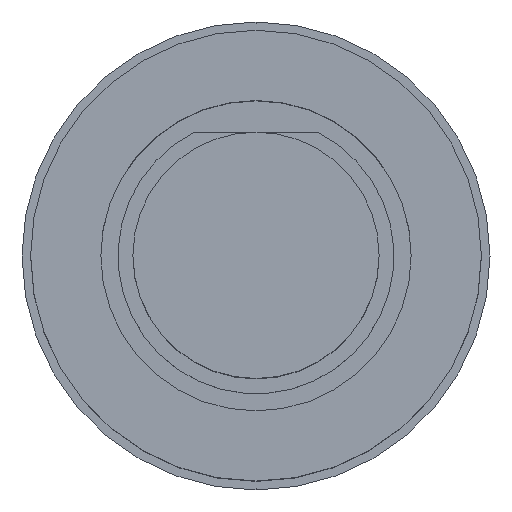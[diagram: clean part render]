
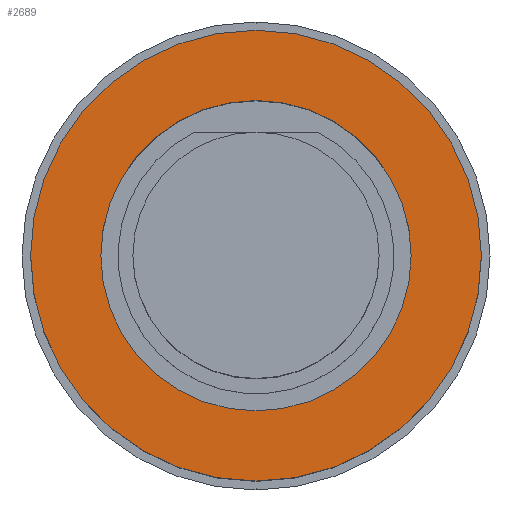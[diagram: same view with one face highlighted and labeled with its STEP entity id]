
A CAD part, top view. The second image highlights one B-rep face of the part: STEP entity #2689.
In plain terms, the highlighted planar face has unit normal (0, 0, 1) as drawn and (0, 1, 0) by its records, which use the part's own axes.
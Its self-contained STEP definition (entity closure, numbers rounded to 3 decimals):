
#30 = CARTESIAN_POINT ( 'NONE',  ( 0., 17.7, 4.575 ) ) ;
#161 = VERTEX_POINT ( 'NONE', #30 ) ;
#515 = EDGE_LOOP ( 'NONE', ( #4166, #1966 ) ) ;
#809 = VERTEX_POINT ( 'NONE', #5833 ) ;
#845 = CIRCLE ( 'NONE', #1359, 3.15 ) ;
#913 = VERTEX_POINT ( 'NONE', #1249 ) ;
#957 = CIRCLE ( 'NONE', #5367, 4.575 ) ;
#1141 = DIRECTION ( 'NONE',  ( 0., 1., 0. ) ) ;
#1249 = CARTESIAN_POINT ( 'NONE',  ( 0., 17.7, -4.575 ) ) ;
#1359 = AXIS2_PLACEMENT_3D ( 'NONE', #5986, #5046, #1848 ) ;
#1401 = CIRCLE ( 'NONE', #3564, 4.575 ) ;
#1688 = DIRECTION ( 'NONE',  ( 0., 0., 1. ) ) ;
#1820 = FACE_BOUND ( 'NONE', #2655, .T. ) ;
#1848 = DIRECTION ( 'NONE',  ( 0., 0., 1. ) ) ;
#1966 = ORIENTED_EDGE ( 'NONE', *, *, #4718, .T. ) ;
#2062 = DIRECTION ( 'NONE',  ( 0., 1., 0. ) ) ;
#2065 = AXIS2_PLACEMENT_3D ( 'NONE', #6040, #1141, #3637 ) ;
#2347 = DIRECTION ( 'NONE',  ( 0., 1., 0. ) ) ;
#2408 = CARTESIAN_POINT ( 'NONE',  ( 0., 17.7, 0. ) ) ;
#2431 = FACE_OUTER_BOUND ( 'NONE', #515, .T. ) ;
#2655 = EDGE_LOOP ( 'NONE', ( #5948, #4652 ) ) ;
#2689 = ADVANCED_FACE ( 'NONE', ( #2431, #1820 ), #3556, .T. ) ;
#2805 = DIRECTION ( 'NONE',  ( 0., 0., 1. ) ) ;
#3298 = EDGE_CURVE ( 'NONE', #809, #3349, #845, .T. ) ;
#3349 = VERTEX_POINT ( 'NONE', #5504 ) ;
#3556 = PLANE ( 'NONE',  #6132 ) ;
#3564 = AXIS2_PLACEMENT_3D ( 'NONE', #3689, #4126, #1688 ) ;
#3637 = DIRECTION ( 'NONE',  ( 0., 0., 1. ) ) ;
#3689 = CARTESIAN_POINT ( 'NONE',  ( 0., 17.7, 0. ) ) ;
#4066 = CIRCLE ( 'NONE', #2065, 3.15 ) ;
#4126 = DIRECTION ( 'NONE',  ( 0., 1., 0. ) ) ;
#4166 = ORIENTED_EDGE ( 'NONE', *, *, #4260, .T. ) ;
#4260 = EDGE_CURVE ( 'NONE', #913, #161, #957, .T. ) ;
#4652 = ORIENTED_EDGE ( 'NONE', *, *, #6171, .F. ) ;
#4718 = EDGE_CURVE ( 'NONE', #161, #913, #1401, .T. ) ;
#5046 = DIRECTION ( 'NONE',  ( 0., 1., 0. ) ) ;
#5367 = AXIS2_PLACEMENT_3D ( 'NONE', #2408, #2347, #2805 ) ;
#5504 = CARTESIAN_POINT ( 'NONE',  ( 0., 17.7, 3.15 ) ) ;
#5833 = CARTESIAN_POINT ( 'NONE',  ( 0., 17.7, -3.15 ) ) ;
#5881 = DIRECTION ( 'NONE',  ( 0., 0., 1. ) ) ;
#5948 = ORIENTED_EDGE ( 'NONE', *, *, #3298, .F. ) ;
#5962 = CARTESIAN_POINT ( 'NONE',  ( 0., 17.7, 0. ) ) ;
#5986 = CARTESIAN_POINT ( 'NONE',  ( 0., 17.7, 0. ) ) ;
#6040 = CARTESIAN_POINT ( 'NONE',  ( 0., 17.7, 0. ) ) ;
#6132 = AXIS2_PLACEMENT_3D ( 'NONE', #5962, #2062, #5881 ) ;
#6171 = EDGE_CURVE ( 'NONE', #3349, #809, #4066, .T. ) ;
